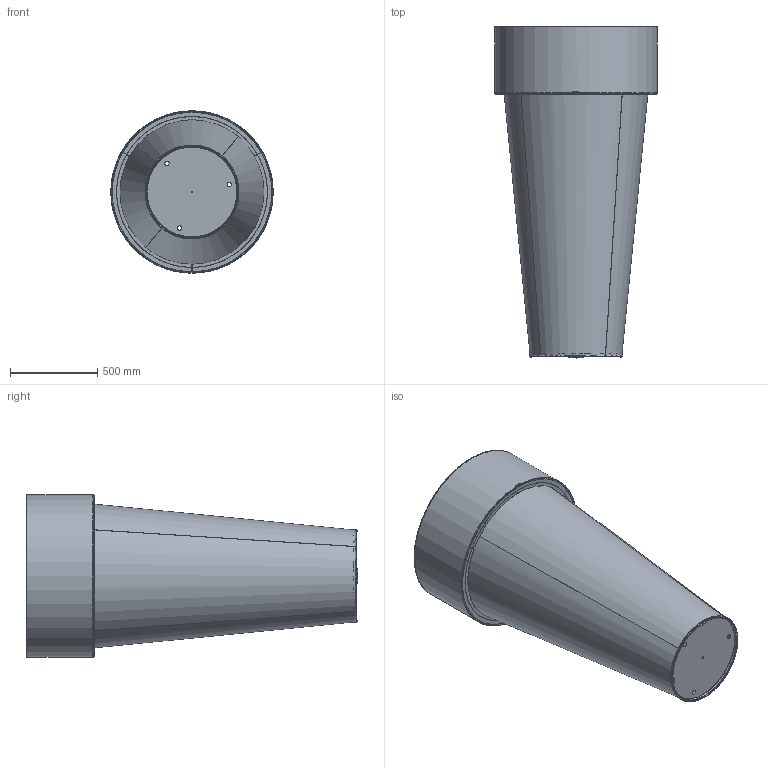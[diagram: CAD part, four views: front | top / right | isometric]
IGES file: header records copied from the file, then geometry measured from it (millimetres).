
Start section: SolidWorks IGES file using analytic representation for surfaces
Global section: file name: C:\VaultDeCastelli\Progetti\DC\PESO LEGGERO PRODOTTI\Ale\DeCastelli-3D-Delta XXL 185.igs; native system: SolidWorks 2022; preprocessor: SolidWorks 2022; author: AlessandroP; date: 240802.102824; units: millimetre
Bounding box: 928 x 1897.32 x 928 mm (x, y, z)
Surface area: 10786783.2 mm2 (no closed solid volume)
Topology: 0 solids, 0 shells, 111 faces, 2419 edges, 2419 vertices
Faces by surface type: bspline 65, revolution 46
